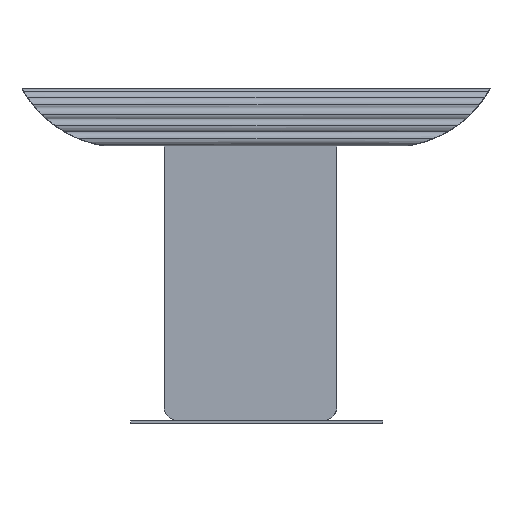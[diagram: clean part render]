
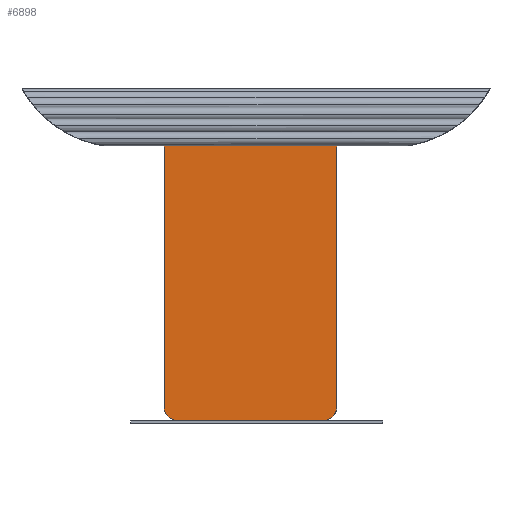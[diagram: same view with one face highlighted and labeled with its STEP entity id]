
A CAD part, top view. The second image highlights one B-rep face of the part: STEP entity #6898.
In plain terms, the highlighted planar face has unit normal (0, 0, 1).
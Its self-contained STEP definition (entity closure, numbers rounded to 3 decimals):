
#326 = VERTEX_POINT ( 'NONE', #687 ) ;
#426 = CIRCLE ( 'NONE', #9599, 20. ) ;
#579 = VERTEX_POINT ( 'NONE', #6154 ) ;
#687 = CARTESIAN_POINT ( 'NONE',  ( -162.803, -240.991, 590. ) ) ;
#732 = DIRECTION ( 'NONE',  ( 1., 0., 0. ) ) ;
#1112 = FACE_OUTER_BOUND ( 'NONE', #5372, .T. ) ;
#1139 = EDGE_CURVE ( 'NONE', #5603, #326, #426, .T. ) ;
#1232 = CARTESIAN_POINT ( 'NONE',  ( 37.197, 159.009, 590. ) ) ;
#1336 = ORIENTED_EDGE ( 'NONE', *, *, #2255, .T. ) ;
#1578 = CARTESIAN_POINT ( 'NONE',  ( 37.197, -240.991, 590. ) ) ;
#2010 = CARTESIAN_POINT ( 'NONE',  ( -162.803, -220.991, 590. ) ) ;
#2130 = LINE ( 'NONE', #7054, #9677 ) ;
#2255 = EDGE_CURVE ( 'NONE', #4204, #5603, #2130, .T. ) ;
#2277 = DIRECTION ( 'NONE',  ( 1., 0., 0. ) ) ;
#2388 = CARTESIAN_POINT ( 'NONE',  ( -182.803, 139.009, 590. ) ) ;
#2412 = ORIENTED_EDGE ( 'NONE', *, *, #5858, .T. ) ;
#2504 = EDGE_CURVE ( 'NONE', #326, #4745, #8499, .T. ) ;
#2602 = ORIENTED_EDGE ( 'NONE', *, *, #3501, .T. ) ;
#2629 = CARTESIAN_POINT ( 'NONE',  ( -162.803, 159.009, 590. ) ) ;
#2777 = DIRECTION ( 'NONE',  ( 1., 0., 0. ) ) ;
#3110 = EDGE_CURVE ( 'NONE', #4745, #579, #3511, .T. ) ;
#3134 = ORIENTED_EDGE ( 'NONE', *, *, #3110, .T. ) ;
#3183 = CARTESIAN_POINT ( 'NONE',  ( -182.803, -220.991, 590. ) ) ;
#3497 = DIRECTION ( 'NONE',  ( 0., 0., 1. ) ) ;
#3501 = EDGE_CURVE ( 'NONE', #579, #8528, #8123, .T. ) ;
#3511 = CIRCLE ( 'NONE', #4798, 20. ) ;
#3812 = CIRCLE ( 'NONE', #4395, 20. ) ;
#3832 = ORIENTED_EDGE ( 'NONE', *, *, #1139, .T. ) ;
#3997 = CARTESIAN_POINT ( 'NONE',  ( 57.197, 139.009, 590. ) ) ;
#4204 = VERTEX_POINT ( 'NONE', #2388 ) ;
#4395 = AXIS2_PLACEMENT_3D ( 'NONE', #5155, #8164, #6637 ) ;
#4437 = VERTEX_POINT ( 'NONE', #1232 ) ;
#4555 = VECTOR ( 'NONE', #8232, 1000. ) ;
#4745 = VERTEX_POINT ( 'NONE', #1578 ) ;
#4798 = AXIS2_PLACEMENT_3D ( 'NONE', #5857, #6711, #732 ) ;
#4967 = VERTEX_POINT ( 'NONE', #6050 ) ;
#5155 = CARTESIAN_POINT ( 'NONE',  ( 37.197, 139.009, 590. ) ) ;
#5365 = AXIS2_PLACEMENT_3D ( 'NONE', #8289, #7631, #2277 ) ;
#5372 = EDGE_LOOP ( 'NONE', ( #3134, #2602, #2412, #6677, #5897, #1336, #3832, #9565 ) ) ;
#5536 = DIRECTION ( 'NONE',  ( 0., -1., 0. ) ) ;
#5603 = VERTEX_POINT ( 'NONE', #3183 ) ;
#5857 = CARTESIAN_POINT ( 'NONE',  ( 37.197, -220.991, 590. ) ) ;
#5858 = EDGE_CURVE ( 'NONE', #8528, #4437, #3812, .T. ) ;
#5897 = ORIENTED_EDGE ( 'NONE', *, *, #7854, .T. ) ;
#6050 = CARTESIAN_POINT ( 'NONE',  ( -162.803, 159.009, 590. ) ) ;
#6087 = EDGE_CURVE ( 'NONE', #4437, #4967, #9611, .T. ) ;
#6154 = CARTESIAN_POINT ( 'NONE',  ( 57.197, -220.991, 590. ) ) ;
#6312 = VECTOR ( 'NONE', #8684, 1000. ) ;
#6637 = DIRECTION ( 'NONE',  ( -1., 0., 0. ) ) ;
#6677 = ORIENTED_EDGE ( 'NONE', *, *, #6087, .T. ) ;
#6711 = DIRECTION ( 'NONE',  ( 0., 0., 1. ) ) ;
#6898 = ADVANCED_FACE ( 'NONE', ( #1112 ), #8414, .T. ) ;
#7054 = CARTESIAN_POINT ( 'NONE',  ( -182.803, 139.009, 590. ) ) ;
#7065 = DIRECTION ( 'NONE',  ( 1., 0., 0. ) ) ;
#7407 = CARTESIAN_POINT ( 'NONE',  ( -162.803, -240.991, 590. ) ) ;
#7484 = CARTESIAN_POINT ( 'NONE',  ( 57.197, 139.009, 590. ) ) ;
#7631 = DIRECTION ( 'NONE',  ( 0., 0., 1. ) ) ;
#7854 = EDGE_CURVE ( 'NONE', #4967, #4204, #7958, .T. ) ;
#7958 = CIRCLE ( 'NONE', #7978, 20. ) ;
#7978 = AXIS2_PLACEMENT_3D ( 'NONE', #8658, #8593, #7065 ) ;
#8027 = VECTOR ( 'NONE', #8923, 1000. ) ;
#8123 = LINE ( 'NONE', #7484, #4555 ) ;
#8164 = DIRECTION ( 'NONE',  ( 0., 0., 1. ) ) ;
#8232 = DIRECTION ( 'NONE',  ( 0., 1., 0. ) ) ;
#8289 = CARTESIAN_POINT ( 'NONE',  ( 37.197, -220.991, 590. ) ) ;
#8414 = PLANE ( 'NONE',  #5365 ) ;
#8499 = LINE ( 'NONE', #7407, #8027 ) ;
#8528 = VERTEX_POINT ( 'NONE', #3997 ) ;
#8593 = DIRECTION ( 'NONE',  ( 0., 0., 1. ) ) ;
#8658 = CARTESIAN_POINT ( 'NONE',  ( -162.803, 139.009, 590. ) ) ;
#8684 = DIRECTION ( 'NONE',  ( -1., 0., 0. ) ) ;
#8923 = DIRECTION ( 'NONE',  ( 1., 0., 0. ) ) ;
#9565 = ORIENTED_EDGE ( 'NONE', *, *, #2504, .T. ) ;
#9599 = AXIS2_PLACEMENT_3D ( 'NONE', #2010, #3497, #2777 ) ;
#9611 = LINE ( 'NONE', #2629, #6312 ) ;
#9677 = VECTOR ( 'NONE', #5536, 1000. ) ;
